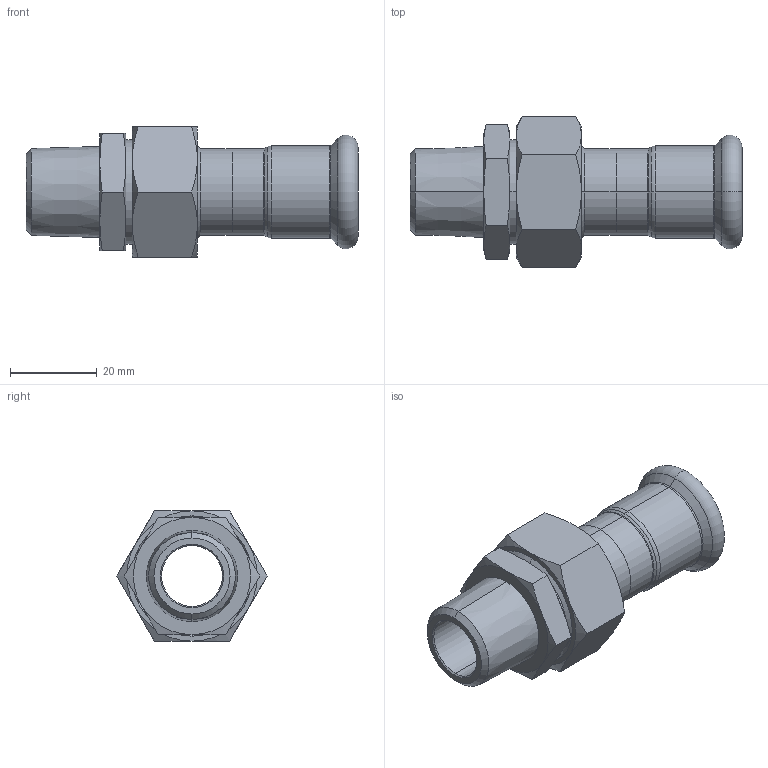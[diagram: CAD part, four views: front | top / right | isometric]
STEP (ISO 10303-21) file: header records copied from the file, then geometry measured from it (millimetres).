
FILE_DESCRIPTION (( 'STEP AP203' ), '1' );
FILE_NAME ('GDA5433.STEP', '2019-01-21T05:19:36', ( '' ), ( '' ), 'SwSTEP 2.0', 'SolidWorks 2015', '' );
FILE_SCHEMA (( 'CONFIG_CONTROL_DESIGN' ));
Length unit declared in the file: millimetre
Products named in the file (6): 18｡ﾁ?; 蛌遙諉芛0.75-0.5; ZL-Ⅰ-01×?; 0.75; T-ｉ-01-18; GDA5433
Assembly tree (5 placements, depth 2):
  GDA5433
    0.75
    18｡ﾁ?
    ZL-Ⅰ-01×?
    蛌遙諉芛0.75-0.5
    T-ｉ-01-18
Bounding box: 76.5 x 34.64 x 30 mm (x, y, z)
Volume: 19357.1 mm3; surface area: 15021.2 mm2
Topology: 5 solids, 5 shells, 123 faces, 254 edges, 146 vertices
Faces by surface type: cone 48, cylinder 32, plane 27, torus 16
Entity records: 4054 total; most frequent: CARTESIAN_POINT 803, DIRECTION 606, ORIENTED_EDGE 508, AXIS2_PLACEMENT_3D 269, EDGE_CURVE 254, VERTEX_POINT 146, CIRCLE 138, EDGE_LOOP 138
